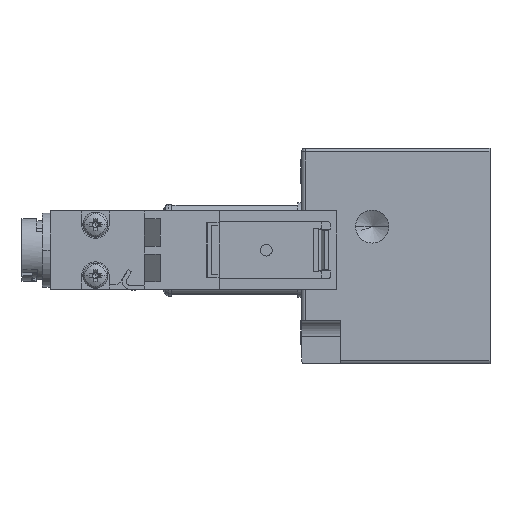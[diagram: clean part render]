
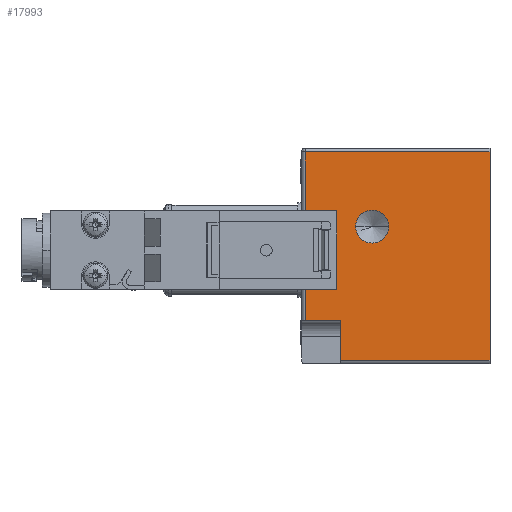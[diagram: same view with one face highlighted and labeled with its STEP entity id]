
A CAD part, left-side view. The second image highlights one B-rep face of the part: STEP entity #17993.
In plain terms, the highlighted planar face has unit normal (-1, 0, 0).
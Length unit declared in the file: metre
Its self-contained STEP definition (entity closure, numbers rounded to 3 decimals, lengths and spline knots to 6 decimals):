
#6 = CARTESIAN_POINT ( 'NONE',  ( -0.0225, -0.024, -0.014 ) ) ;
#761 = CARTESIAN_POINT ( 'NONE',  ( -0.0225, -0.009, 0.003 ) ) ;
#927 = EDGE_CURVE ( 'NONE', #3096, #7148, #14607, .T. ) ;
#1194 = DIRECTION ( 'NONE',  ( 0., 1., 0. ) ) ;
#1926 = DIRECTION ( 'NONE',  ( 0., 0., -1. ) ) ;
#1948 = CARTESIAN_POINT ( 'NONE',  ( -0.0225, -0.0069, 0.003 ) ) ;
#2267 = DIRECTION ( 'NONE',  ( 0., -1., 0. ) ) ;
#2993 = EDGE_CURVE ( 'NONE', #7148, #7816, #10951, .T. ) ;
#3096 = VERTEX_POINT ( 'NONE', #8697 ) ;
#3586 = EDGE_CURVE ( 'NONE', #4187, #11052, #16816, .T. ) ;
#3673 = EDGE_CURVE ( 'NONE', #17037, #15268, #7417, .T. ) ;
#3749 = EDGE_CURVE ( 'NONE', #13524, #17037, #17996, .T. ) ;
#4187 = VERTEX_POINT ( 'NONE', #11450 ) ;
#4415 = CARTESIAN_POINT ( 'NONE',  ( -0.0225, -0.024, -0.00075 ) ) ;
#4691 = EDGE_LOOP ( 'NONE', ( #19460, #13024, #17157, #12777, #11150, #17713 ) ) ;
#5410 = EDGE_LOOP ( 'NONE', ( #16004, #18388 ) ) ;
#6462 = FACE_BOUND ( 'NONE', #5410, .T. ) ;
#7148 = VERTEX_POINT ( 'NONE', #9828 ) ;
#7182 = DIRECTION ( 'NONE',  ( -1., 0., 0. ) ) ;
#7417 = LINE ( 'NONE', #14746, #14962 ) ;
#7816 = VERTEX_POINT ( 'NONE', #11058 ) ;
#7913 = CARTESIAN_POINT ( 'NONE',  ( -0.0225, -0.024, 0.0125 ) ) ;
#8553 = DIRECTION ( 'NONE',  ( -1., 0., 0. ) ) ;
#8697 = CARTESIAN_POINT ( 'NONE',  ( -0.0225, -0.0005, -0.009 ) ) ;
#8786 = VECTOR ( 'NONE', #16899, 1. ) ;
#9317 = EDGE_CURVE ( 'NONE', #11052, #4187, #11223, .T. ) ;
#9757 = EDGE_CURVE ( 'NONE', #7816, #13524, #12798, .T. ) ;
#9828 = CARTESIAN_POINT ( 'NONE',  ( -0.0225, -0.005, -0.009 ) ) ;
#9998 = VECTOR ( 'NONE', #17958, 1. ) ;
#10457 = FACE_OUTER_BOUND ( 'NONE', #4691, .T. ) ;
#10599 = VECTOR ( 'NONE', #16651, 1. ) ;
#10677 = AXIS2_PLACEMENT_3D ( 'NONE', #761, #11280, #2267 ) ;
#10951 = LINE ( 'NONE', #14494, #18455 ) ;
#11052 = VERTEX_POINT ( 'NONE', #1948 ) ;
#11058 = CARTESIAN_POINT ( 'NONE',  ( -0.0225, -0.005, -0.014 ) ) ;
#11150 = ORIENTED_EDGE ( 'NONE', *, *, #9757, .T. ) ;
#11223 = CIRCLE ( 'NONE', #10677, 0.0021 ) ;
#11280 = DIRECTION ( 'NONE',  ( -1., 0., 0. ) ) ;
#11450 = CARTESIAN_POINT ( 'NONE',  ( -0.0225, -0.0111, 0.003 ) ) ;
#11658 = AXIS2_PLACEMENT_3D ( 'NONE', #17565, #8553, #19077 ) ;
#11659 = VECTOR ( 'NONE', #1926, 1. ) ;
#12133 = LINE ( 'NONE', #12447, #11659 ) ;
#12447 = CARTESIAN_POINT ( 'NONE',  ( -0.0225, -0.0005, -0.00075 ) ) ;
#12777 = ORIENTED_EDGE ( 'NONE', *, *, #2993, .T. ) ;
#12798 = LINE ( 'NONE', #13970, #8786 ) ;
#12999 = DIRECTION ( 'NONE',  ( 0., 0., -1. ) ) ;
#13024 = ORIENTED_EDGE ( 'NONE', *, *, #17676, .T. ) ;
#13524 = VERTEX_POINT ( 'NONE', #6 ) ;
#13970 = CARTESIAN_POINT ( 'NONE',  ( -0.0225, -0.01225, -0.014 ) ) ;
#13989 = AXIS2_PLACEMENT_3D ( 'NONE', #17627, #7182, #17701 ) ;
#14494 = CARTESIAN_POINT ( 'NONE',  ( -0.0225, -0.005, -0.00075 ) ) ;
#14607 = LINE ( 'NONE', #16317, #10599 ) ;
#14746 = CARTESIAN_POINT ( 'NONE',  ( -0.0225, -0.01225, 0.0125 ) ) ;
#14962 = VECTOR ( 'NONE', #1194, 1. ) ;
#15268 = VERTEX_POINT ( 'NONE', #15871 ) ;
#15871 = CARTESIAN_POINT ( 'NONE',  ( -0.0225, -0.0005, 0.0125 ) ) ;
#16004 = ORIENTED_EDGE ( 'NONE', *, *, #3586, .F. ) ;
#16195 = PLANE ( 'NONE',  #13989 ) ;
#16317 = CARTESIAN_POINT ( 'NONE',  ( -0.0225, -0.01225, -0.009 ) ) ;
#16651 = DIRECTION ( 'NONE',  ( 0., -1., 0. ) ) ;
#16816 = CIRCLE ( 'NONE', #11658, 0.0021 ) ;
#16899 = DIRECTION ( 'NONE',  ( 0., -1., 0. ) ) ;
#17037 = VERTEX_POINT ( 'NONE', #7913 ) ;
#17157 = ORIENTED_EDGE ( 'NONE', *, *, #927, .T. ) ;
#17565 = CARTESIAN_POINT ( 'NONE',  ( -0.0225, -0.009, 0.003 ) ) ;
#17627 = CARTESIAN_POINT ( 'NONE',  ( -0.0225, -0.024, -0.014 ) ) ;
#17676 = EDGE_CURVE ( 'NONE', #15268, #3096, #12133, .T. ) ;
#17701 = DIRECTION ( 'NONE',  ( 0., 0., 1. ) ) ;
#17713 = ORIENTED_EDGE ( 'NONE', *, *, #3749, .T. ) ;
#17958 = DIRECTION ( 'NONE',  ( 0., 0., 1. ) ) ;
#17993 = ADVANCED_FACE ( 'NONE', ( #6462, #10457 ), #16195, .T. ) ;
#17996 = LINE ( 'NONE', #4415, #9998 ) ;
#18388 = ORIENTED_EDGE ( 'NONE', *, *, #9317, .F. ) ;
#18455 = VECTOR ( 'NONE', #12999, 1. ) ;
#19077 = DIRECTION ( 'NONE',  ( 0., -1., 0. ) ) ;
#19460 = ORIENTED_EDGE ( 'NONE', *, *, #3673, .T. ) ;
